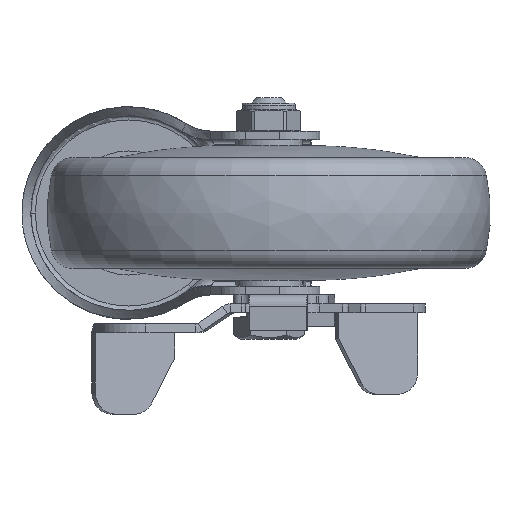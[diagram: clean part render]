
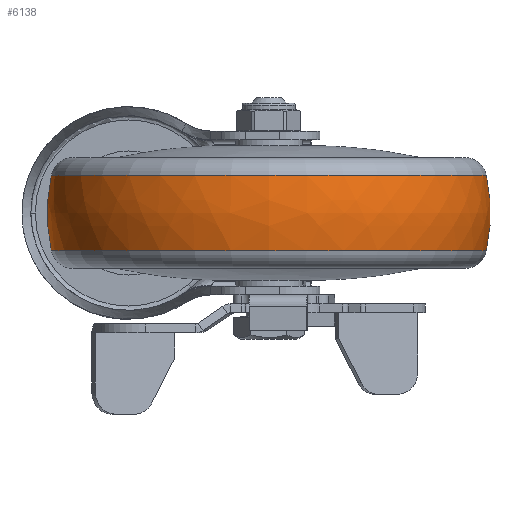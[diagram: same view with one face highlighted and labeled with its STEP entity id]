
A CAD part, front view. The second image highlights one B-rep face of the part: STEP entity #6138.
In plain terms, the highlighted free-form (B-spline) face has degree [3, 3] with [7, 4] control points.
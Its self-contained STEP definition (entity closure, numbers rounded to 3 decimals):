
#5842=CARTESIAN_POINT('',(0.,10.,0.));
#5843=DIRECTION('',(0.,0.,1.));
#5844=DIRECTION('',(0.214,0.977,0.));
#5845=AXIS2_PLACEMENT_3D('',#5842,#5843,#5844);
#5847=CARTESIAN_POINT('',(0.,-10.,0.));
#5848=DIRECTION('',(0.,0.,-1.));
#5849=DIRECTION('',(0.214,-0.977,0.));
#5850=AXIS2_PLACEMENT_3D('',#5847,#5848,#5849);
#5852=CARTESIAN_POINT('',(8.571,0.,0.));
#5853=DIRECTION('',(-1.,0.,0.));
#5854=DIRECTION('',(0.,1.,0.));
#5855=AXIS2_PLACEMENT_3D('',#5852,#5853,#5854);
#5877=CARTESIAN_POINT('',(-8.571,0.,0.));
#5878=DIRECTION('',(-1.,0.,0.));
#5879=DIRECTION('',(0.,1.,0.));
#5880=AXIS2_PLACEMENT_3D('',#5877,#5878,#5879);
#5895=CARTESIAN_POINT('',(8.571,49.071,0.));
#5897=VERTEX_POINT('',#5895);
#5898=CARTESIAN_POINT('',(-8.571,49.071,0.));
#5899=VERTEX_POINT('',#5898);
#5915=CARTESIAN_POINT('',(8.571,-49.071,
0.));
#5917=VERTEX_POINT('',#5915);
#5918=CARTESIAN_POINT('',(-8.571,-49.071,
0.));
#5919=VERTEX_POINT('',#5918);
#6100=CARTESIAN_POINT('',(-8.909,-48.899,
3.076));
#6101=CARTESIAN_POINT('',(-3.02,-50.241,
3.161));
#6102=CARTESIAN_POINT('',(3.02,-50.241,3.161));
#6103=CARTESIAN_POINT('',(8.909,-48.899,3.076));
#6104=CARTESIAN_POINT('',(-8.909,-50.792,
-27.016));
#6105=CARTESIAN_POINT('',(-3.02,-52.186,
-27.757));
#6106=CARTESIAN_POINT('',(3.02,-52.186,
-27.757));
#6107=CARTESIAN_POINT('',(8.909,-50.792,
-27.016));
#6108=CARTESIAN_POINT('',(-8.909,-30.152,
-48.995));
#6109=CARTESIAN_POINT('',(-3.02,-30.98,
-50.341));
#6110=CARTESIAN_POINT('',(3.02,-30.98,
-50.341));
#6111=CARTESIAN_POINT('',(8.909,-30.152,
-48.995));
#6112=CARTESIAN_POINT('',(-8.909,0.,
-48.995));
#6113=CARTESIAN_POINT('',(-3.02,0.,
-50.341));
#6114=CARTESIAN_POINT('',(3.02,0.,-50.341));
#6115=CARTESIAN_POINT('',(8.909,0.,
-48.995));
#6116=CARTESIAN_POINT('',(-8.909,30.152,
-48.995));
#6117=CARTESIAN_POINT('',(-3.02,30.98,
-50.341));
#6118=CARTESIAN_POINT('',(3.02,30.98,-50.341));
#6119=CARTESIAN_POINT('',(8.909,30.152,-48.995));
#6120=CARTESIAN_POINT('',(-8.909,50.792,
-27.016));
#6121=CARTESIAN_POINT('',(-3.02,52.186,
-27.757));
#6122=CARTESIAN_POINT('',(3.02,52.186,-27.757));
#6123=CARTESIAN_POINT('',(8.909,50.792,-27.016));
#6124=CARTESIAN_POINT('',(-8.909,48.899,3.076));
#6125=CARTESIAN_POINT('',(-3.02,50.241,3.161));
#6126=CARTESIAN_POINT('',(3.02,50.241,3.161));
#6127=CARTESIAN_POINT('',(8.909,48.899,3.076));
#6128=(BOUNDED_SURFACE()B_SPLINE_SURFACE(3,3,((#6100,#6101,#6102,#6103),(#6104,
#6105,#6106,#6107),(#6108,#6109,#6110,#6111),(#6112,#6113,#6114,#6115),(#6116,
#6117,#6118,#6119),(#6120,#6121,#6122,#6123),(#6124,#6125,#6126,#6127)),
.UNSPECIFIED.,.F.,.F.,.F.)B_SPLINE_SURFACE_WITH_KNOTS((4,3,4),(4,4),(0.,1.,
2.),(0.,1.),.UNSPECIFIED.)GEOMETRIC_REPRESENTATION_ITEM()RATIONAL_B_SPLINE_SURFACE(((1.202,1.182,1.182,1.202),(
0.95,0.934,0.934,0.95),(
0.95,0.934,0.934,0.95),(
1.202,1.182,1.182,1.202),(
0.95,0.934,0.934,0.95),(
0.95,0.934,0.934,0.95),(
1.202,1.182,1.182,1.202)))REPRESENTATION_ITEM('')SURFACE());
#6130=ORIENTED_EDGE('',*,*,#6129,.T.);
#6132=ORIENTED_EDGE('',*,*,#6131,.T.);
#6134=ORIENTED_EDGE('',*,*,#6133,.F.);
#6135=ORIENTED_EDGE('',*,*,#6093,.F.);
#6136=EDGE_LOOP('',(#6130,#6132,#6134,#6135));
#6137=FACE_OUTER_BOUND('',#6136,.F.);
#5846=CIRCLE('',#5845,40.);
#5851=CIRCLE('',#5850,40.);
#5856=CIRCLE('',#5855,49.071);
#5881=CIRCLE('',#5880,49.071);
#6093=EDGE_CURVE('',#5897,#5917,#5856,.T.);
#6129=EDGE_CURVE('',#5897,#5899,#5846,.T.);
#6131=EDGE_CURVE('',#5899,#5919,#5881,.T.);
#6133=EDGE_CURVE('',#5917,#5919,#5851,.T.);
#6138=ADVANCED_FACE('',(#6137),#6128,.T.);
